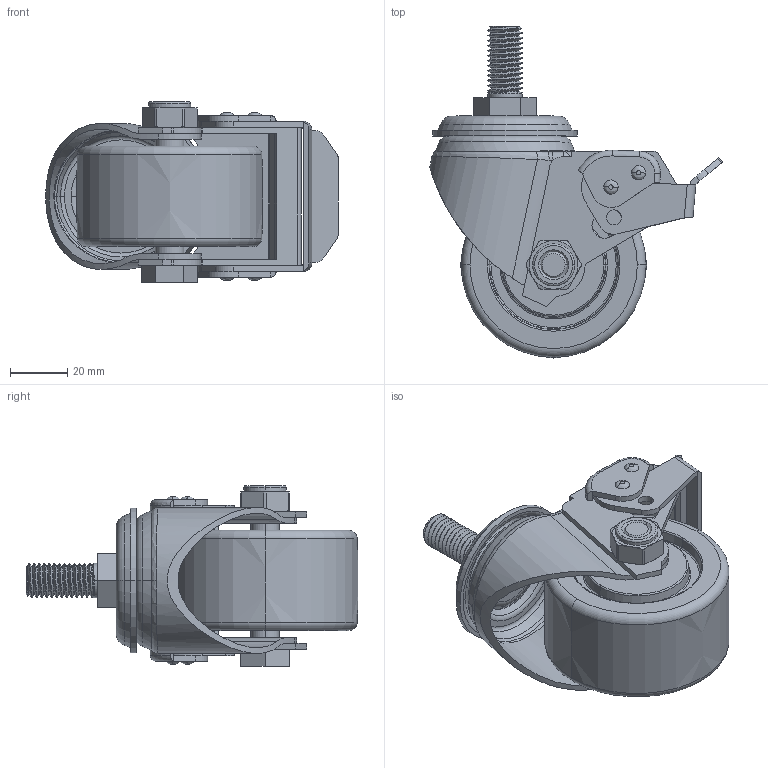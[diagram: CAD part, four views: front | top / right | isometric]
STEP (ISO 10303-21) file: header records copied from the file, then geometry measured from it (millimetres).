
FILE_DESCRIPTION((''),'2;1');
FILE_NAME('M413425_ASM','2022-01-19T',('lenovo'),(''),'PRO/ENGINEER BY PARAMETRIC TECHNOLOGY CORPORATION, 2010280','PRO/ENGINEER BY PARAMETRIC TECHNOLOGY CORPORATION, 2010280','');
FILE_SCHEMA(('CONFIG_CONTROL_DESIGN'));
Length unit declared in the file: millimetre
Products named in the file (11): M41365-311; M4130-211; 360-23-M12X25; M4125-16; M41325-535; M41350-531; M4130-461; M4130-462; M410-20-M10X57; 630-34; M413425_ASM
Assembly tree (10 placements, depth 2):
  M413425_ASM
    M41365-311
    M4130-211
    360-23-M12X25
    M4125-16
    M41325-535
    M41350-531
    M4130-461
    M4130-462
    M410-20-M10X57
    630-34
Bounding box: 102.18 x 115.97 x 63.11 mm (x, y, z)
Volume: 153441.2 mm3; surface area: 59799.7 mm2
Topology: 10 solids, 10 shells, 409 faces, 1011 edges, 636 vertices
Faces by surface type: cylinder 143, plane 123, bspline 49, cone 47, torus 45, sphere 2
Entity records: 18740 total; most frequent: CARTESIAN_POINT 8912, DIRECTION 2023, ORIENTED_EDGE 2022, EDGE_CURVE 1011, AXIS2_PLACEMENT_3D 804, VERTEX_POINT 636, EDGE_LOOP 455, CIRCLE 423
